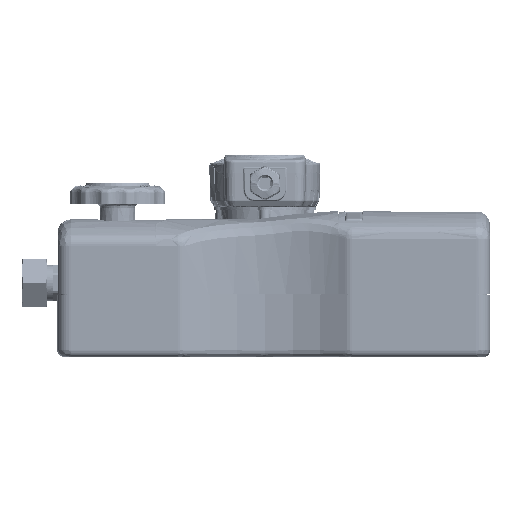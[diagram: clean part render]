
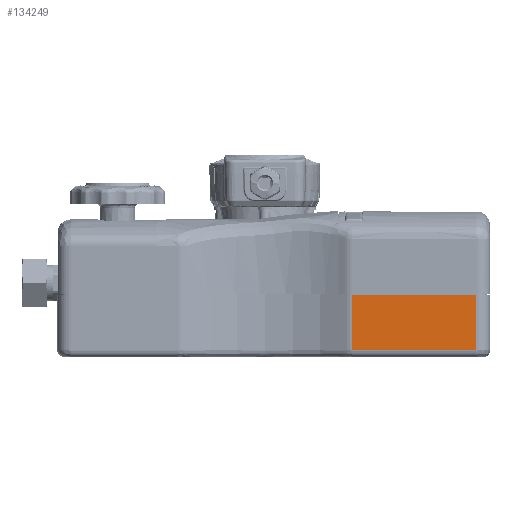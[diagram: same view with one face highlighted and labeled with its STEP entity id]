
A CAD part, left-side view. The second image highlights one B-rep face of the part: STEP entity #134249.
In plain terms, the highlighted planar face has unit normal (-1, 0, 0).
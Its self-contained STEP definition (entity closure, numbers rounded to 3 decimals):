
#14549 = ORIENTED_EDGE ( 'NONE', *, *, #21852, .T. ) ;
#16505 = EDGE_LOOP ( 'NONE', ( #14549, #537002, #204296, #343608 ) ) ;
#21852 = EDGE_CURVE ( 'NONE', #435266, #134428, #82286, .T. ) ;
#80732 = VECTOR ( 'NONE', #388812, 1000. ) ;
#82286 = LINE ( 'NONE', #507994, #130470 ) ;
#85970 = DIRECTION ( 'NONE',  ( 0., 0., 1. ) ) ;
#95185 = EDGE_CURVE ( 'NONE', #166765, #221662, #157691, .T. ) ;
#107622 = DIRECTION ( 'NONE',  ( 0., 0., -1. ) ) ;
#113972 = CARTESIAN_POINT ( 'NONE',  ( -89.75, -155., -55. ) ) ;
#130470 = VECTOR ( 'NONE', #207612, 1000. ) ;
#132749 = CARTESIAN_POINT ( 'NONE',  ( -89.75, -155., -50. ) ) ;
#134249 = ADVANCED_FACE ( 'NONE', ( #445188 ), #325510, .T. ) ;
#134428 = VERTEX_POINT ( 'NONE', #211273 ) ;
#157691 = LINE ( 'NONE', #193958, #189053 ) ;
#166765 = VERTEX_POINT ( 'NONE', #542942 ) ;
#169702 = AXIS2_PLACEMENT_3D ( 'NONE', #113972, #283814, #85970 ) ;
#178203 = EDGE_CURVE ( 'NONE', #221662, #134428, #219119, .T. ) ;
#189053 = VECTOR ( 'NONE', #107622, 1000. ) ;
#193958 = CARTESIAN_POINT ( 'NONE',  ( -89.75, -145., -55. ) ) ;
#204296 = ORIENTED_EDGE ( 'NONE', *, *, #95185, .F. ) ;
#207612 = DIRECTION ( 'NONE',  ( 0., 0., -1. ) ) ;
#211273 = CARTESIAN_POINT ( 'NONE',  ( -89.75, -52.854, -50. ) ) ;
#219119 = LINE ( 'NONE', #132749, #80732 ) ;
#221662 = VERTEX_POINT ( 'NONE', #269759 ) ;
#269759 = CARTESIAN_POINT ( 'NONE',  ( -89.75, -145., -50. ) ) ;
#275017 = EDGE_CURVE ( 'NONE', #166765, #435266, #401856, .T. ) ;
#283814 = DIRECTION ( 'NONE',  ( -1., 0., 0. ) ) ;
#325510 = PLANE ( 'NONE',  #169702 ) ;
#343608 = ORIENTED_EDGE ( 'NONE', *, *, #275017, .T. ) ;
#344299 = VECTOR ( 'NONE', #396442, 1000. ) ;
#388812 = DIRECTION ( 'NONE',  ( 0., 1., 0. ) ) ;
#396442 = DIRECTION ( 'NONE',  ( 0., 1., 0. ) ) ;
#401856 = LINE ( 'NONE', #443604, #344299 ) ;
#435266 = VERTEX_POINT ( 'NONE', #506890 ) ;
#443604 = CARTESIAN_POINT ( 'NONE',  ( -89.75, -155., -9. ) ) ;
#445188 = FACE_OUTER_BOUND ( 'NONE', #16505, .T. ) ;
#506890 = CARTESIAN_POINT ( 'NONE',  ( -89.75, -52.854, -9. ) ) ;
#507994 = CARTESIAN_POINT ( 'NONE',  ( -89.75, -52.854, -55. ) ) ;
#537002 = ORIENTED_EDGE ( 'NONE', *, *, #178203, .F. ) ;
#542942 = CARTESIAN_POINT ( 'NONE',  ( -89.75, -145., -9. ) ) ;
